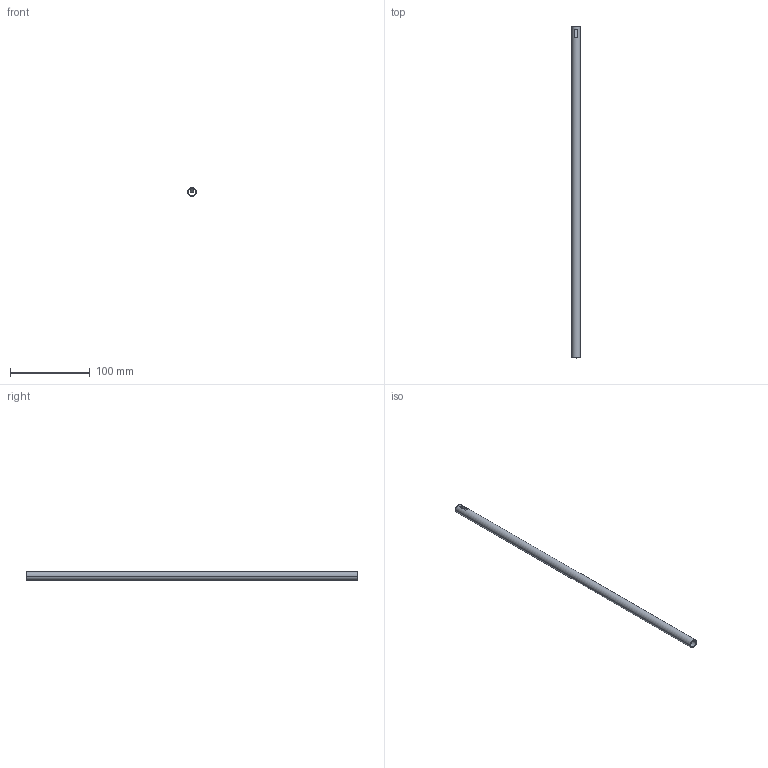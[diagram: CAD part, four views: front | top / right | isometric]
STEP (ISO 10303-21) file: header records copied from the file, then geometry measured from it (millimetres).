
FILE_DESCRIPTION (( 'STEP AP214' ), '1' );
FILE_NAME ('Relingsrohr_2S-Rundrel_P760604300_440.step', '2010-09-07T12:59:22', ( 'grass' ), ( '' ), 'SwSTEP 2.0', 'SolidWorks 2010', '' );
FILE_SCHEMA (( 'AUTOMOTIVE_DESIGN' ));
Length unit declared in the file: millimetre
Products named in the file (1): Relingsrohr_2S-Rundrel_P760604300_440
Bounding box: 11 x 416 x 11 mm (x, y, z)
Volume: 13066.8 mm3; surface area: 26241.4 mm2
Topology: 1 solids, 1 shells, 14 faces, 34 edges, 22 vertices
Faces by surface type: plane 10, cylinder 4
Entity records: 476 total; most frequent: CARTESIAN_POINT 77, DIRECTION 72, ORIENTED_EDGE 68, EDGE_CURVE 34, AXIS2_PLACEMENT_3D 25, VECTOR 22, LINE 22, VERTEX_POINT 22
